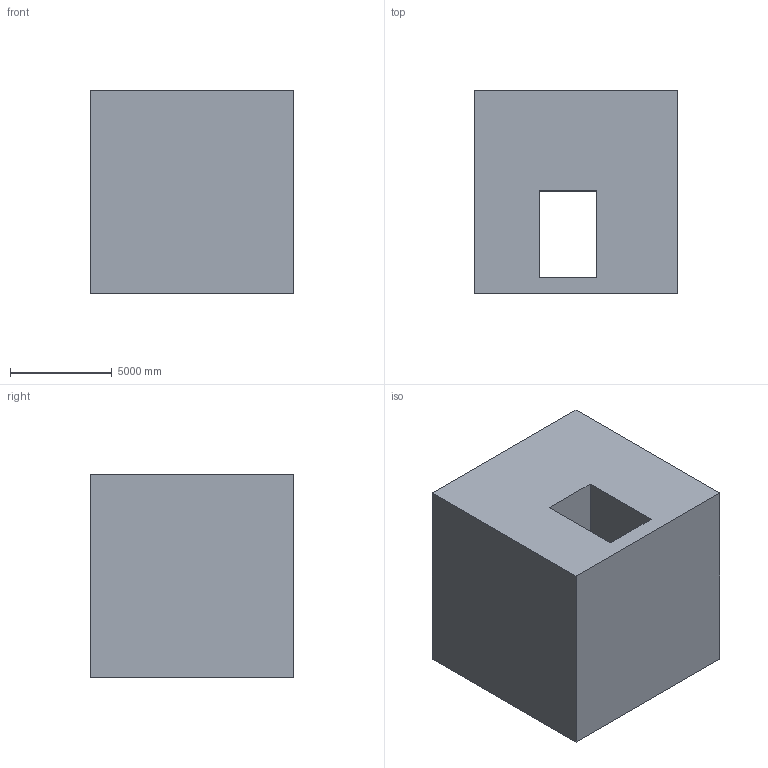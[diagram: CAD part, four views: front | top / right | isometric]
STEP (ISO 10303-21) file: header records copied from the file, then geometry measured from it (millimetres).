
FILE_DESCRIPTION (( 'STEP AP203' ), '1' );
FILE_NAME ('33.STEP', '2022-08-31T11:13:45', ( 'user' ), ( '' ), 'SwSTEP 2.0', 'SolidWorks 2021', '' );
FILE_SCHEMA (( 'CONFIG_CONTROL_DESIGN' ));
Length unit declared in the file: centimetre
Products named in the file (1): 33
Bounding box: 10000 x 10000 x 10000 mm (x, y, z)
Volume: 856066300941.5 mm3; surface area: 753063881.5 mm2
Topology: 1 solids, 1 shells, 15 faces, 42 edges, 28 vertices
Faces by surface type: plane 15
Entity records: 561 total; most frequent: CARTESIAN_POINT 86, ORIENTED_EDGE 84, DIRECTION 74, EDGE_CURVE 42, LINE 42, VECTOR 42, VERTEX_POINT 28, EDGE_LOOP 18
